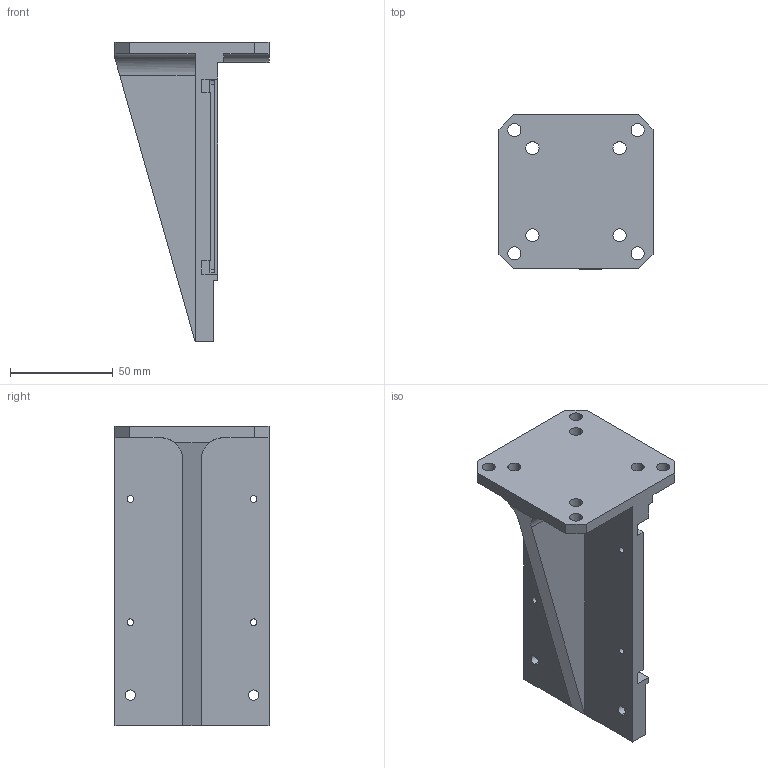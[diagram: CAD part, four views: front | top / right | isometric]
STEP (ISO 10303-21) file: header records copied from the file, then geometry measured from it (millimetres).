
FILE_DESCRIPTION (( 'STEP AP203' ), '1' );
FILE_NAME ('MVH3012-Motor-Vertikalhalter-kurz.STEP', '2016-01-19T11:02:02', ( '' ), ( '' ), 'SwSTEP 2.0', 'SolidWorks 2014', '' );
FILE_SCHEMA (( 'CONFIG_CONTROL_DESIGN' ));
Length unit declared in the file: millimetre
Products named in the file (1): MVH3012-Motor-Vertikalhalter-kurz
Bounding box: 75 x 75 x 146 mm (x, y, z)
Volume: 143160.3 mm3; surface area: 45473.5 mm2
Topology: 1 solids, 1 shells, 111 faces, 315 edges, 208 vertices
Faces by surface type: plane 63, cylinder 48
Entity records: 3750 total; most frequent: CARTESIAN_POINT 641, DIRECTION 633, ORIENTED_EDGE 630, EDGE_CURVE 315, VECTOR 217, LINE 217, AXIS2_PLACEMENT_3D 208, VERTEX_POINT 208
